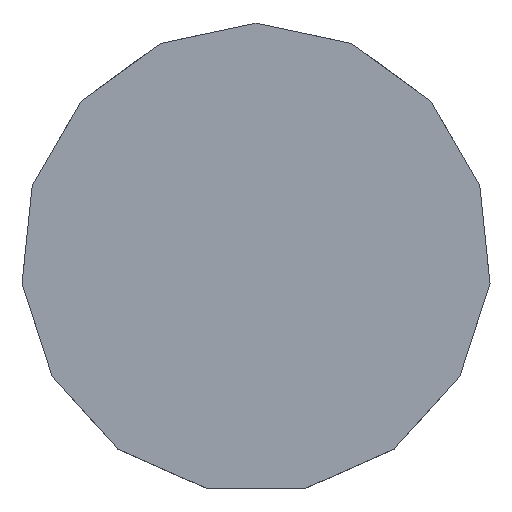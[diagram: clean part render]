
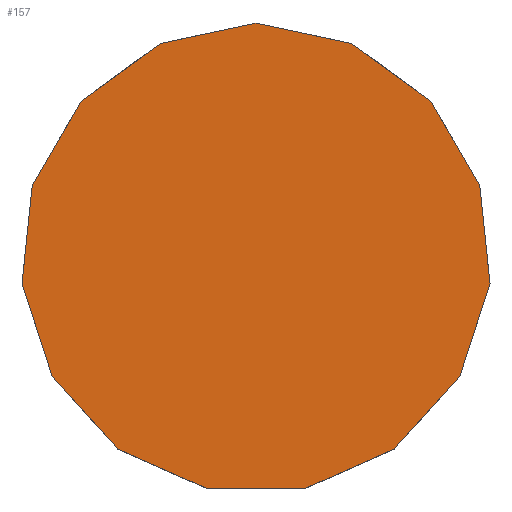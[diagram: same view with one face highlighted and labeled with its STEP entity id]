
A CAD part, top view. The second image highlights one B-rep face of the part: STEP entity #157.
In plain terms, the highlighted planar face has unit normal (0, 0, 1).
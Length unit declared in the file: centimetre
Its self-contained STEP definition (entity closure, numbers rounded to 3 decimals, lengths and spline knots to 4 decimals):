
#3 = EDGE_CURVE ( 'NONE', #2042, #959, #1417, .T. ) ;
#25 = LINE ( 'NONE', #2528, #1195 ) ;
#48 = ORIENTED_EDGE ( 'NONE', *, *, #950, .T. ) ;
#67 = LINE ( 'NONE', #266, #2397 ) ;
#75 = CARTESIAN_POINT ( 'NONE',  ( 171.3444, 154.2792, 22.7305 ) ) ;
#81 = EDGE_CURVE ( 'NONE', #2219, #1859, #2984, .T. ) ;
#94 = VECTOR ( 'NONE', #908, 100. ) ;
#115 = CARTESIAN_POINT ( 'NONE',  ( -219.2819, 71.249, 22.7305 ) ) ;
#157 = ADVANCED_FACE ( 'NONE', ( #982 ), #1087, .T. ) ;
#169 = VECTOR ( 'NONE', #404, 100. ) ;
#180 = EDGE_LOOP ( 'NONE', ( #2321, #212, #857, #2750, #48, #595, #195, #2232, #254, #2438, #2952, #1860, #2616, #622, #1810 ) ) ;
#187 = DIRECTION ( 'NONE',  ( -0.105, -0.995, 0. ) ) ;
#195 = ORIENTED_EDGE ( 'NONE', *, *, #2447, .T. ) ;
#212 = ORIENTED_EDGE ( 'NONE', *, *, #3, .T. ) ;
#223 = EDGE_CURVE ( 'NONE', #939, #2514, #844, .T. ) ;
#241 = VECTOR ( 'NONE', #2076, 100. ) ;
#254 = ORIENTED_EDGE ( 'NONE', *, *, #353, .T. ) ;
#266 = CARTESIAN_POINT ( 'NONE',  ( 135.5237, -186.5323, 22.7305 ) ) ;
#278 = DIRECTION ( 'NONE',  ( -0.809, -0.588, 0. ) ) ;
#319 = LINE ( 'NONE', #1747, #2111 ) ;
#324 = VERTEX_POINT ( 'NONE', #2409 ) ;
#353 = EDGE_CURVE ( 'NONE', #1542, #1688, #1134, .T. ) ;
#404 = DIRECTION ( 'NONE',  ( 0.914, -0.407, 0. ) ) ;
#434 = CARTESIAN_POINT ( 'NONE',  ( 0., 0., 22.7305 ) ) ;
#494 = EDGE_CURVE ( 'NONE', #2890, #1542, #1451, .T. ) ;
#508 = CARTESIAN_POINT ( 'NONE',  ( 219.2819, 71.249, 22.7305 ) ) ;
#595 = ORIENTED_EDGE ( 'NONE', *, *, #223, .T. ) ;
#606 = CARTESIAN_POINT ( 'NONE',  ( 199.6766, -115.2833, 22.7305 ) ) ;
#622 = ORIENTED_EDGE ( 'NONE', *, *, #1632, .T. ) ;
#643 = DIRECTION ( 'NONE',  ( 0., 0., 1. ) ) ;
#773 = CARTESIAN_POINT ( 'NONE',  ( -135.5237, -186.5323, 22.7305 ) ) ;
#805 = VECTOR ( 'NONE', #1408, 100. ) ;
#844 = LINE ( 'NONE', #606, #2003 ) ;
#852 = DIRECTION ( 'NONE',  ( 0.669, 0.743, 0. ) ) ;
#857 = ORIENTED_EDGE ( 'NONE', *, *, #2832, .T. ) ;
#866 = CARTESIAN_POINT ( 'NONE',  ( 171.3444, 154.2792, 22.7305 ) ) ;
#868 = DIRECTION ( 'NONE',  ( 1., 0., 0. ) ) ;
#899 = EDGE_CURVE ( 'NONE', #2305, #324, #1928, .T. ) ;
#902 = CARTESIAN_POINT ( 'NONE',  ( 199.6766, -115.2833, 22.7305 ) ) ;
#908 = DIRECTION ( 'NONE',  ( 0.309, 0.951, 0. ) ) ;
#917 = DIRECTION ( 'NONE',  ( -0.809, 0.588, 0. ) ) ;
#918 = VECTOR ( 'NONE', #1367, 100. ) ;
#939 = VERTEX_POINT ( 'NONE', #2369 ) ;
#950 = EDGE_CURVE ( 'NONE', #1836, #939, #67, .T. ) ;
#959 = VERTEX_POINT ( 'NONE', #1663 ) ;
#982 = FACE_OUTER_BOUND ( 'NONE', #180, .T. ) ;
#1039 = DIRECTION ( 'NONE',  ( -0.5, -0.866, 0. ) ) ;
#1052 = CARTESIAN_POINT ( 'NONE',  ( 199.6766, -115.2833, 22.7305 ) ) ;
#1087 = PLANE ( 'NONE',  #1423 ) ;
#1134 = LINE ( 'NONE', #75, #2839 ) ;
#1191 = LINE ( 'NONE', #2489, #1805 ) ;
#1195 = VECTOR ( 'NONE', #917, 100. ) ;
#1201 = VECTOR ( 'NONE', #187, 100. ) ;
#1237 = DIRECTION ( 'NONE',  ( -0.5, 0.866, 0. ) ) ;
#1325 = CARTESIAN_POINT ( 'NONE',  ( 47.9375, -225.5282, 22.7305 ) ) ;
#1345 = CARTESIAN_POINT ( 'NONE',  ( -47.9375, -225.5282, 22.7305 ) ) ;
#1367 = DIRECTION ( 'NONE',  ( 1., 0., 0. ) ) ;
#1408 = DIRECTION ( 'NONE',  ( 0.669, -0.743, 0. ) ) ;
#1417 = LINE ( 'NONE', #2401, #805 ) ;
#1423 = AXIS2_PLACEMENT_3D ( 'NONE', #434, #643, #868 ) ;
#1438 = CARTESIAN_POINT ( 'NONE',  ( 229.3036, -24.1008, 22.7305 ) ) ;
#1439 = LINE ( 'NONE', #1761, #1922 ) ;
#1451 = LINE ( 'NONE', #508, #1934 ) ;
#1469 = VERTEX_POINT ( 'NONE', #2835 ) ;
#1542 = VERTEX_POINT ( 'NONE', #2891 ) ;
#1600 = LINE ( 'NONE', #1653, #918 ) ;
#1625 = VERTEX_POINT ( 'NONE', #1345 ) ;
#1632 = EDGE_CURVE ( 'NONE', #324, #2219, #319, .T. ) ;
#1651 = DIRECTION ( 'NONE',  ( -0.978, 0.208, 0. ) ) ;
#1653 = CARTESIAN_POINT ( 'NONE',  ( -47.9375, -225.5282, 22.7305 ) ) ;
#1663 = CARTESIAN_POINT ( 'NONE',  ( -135.5237, -186.5323, 22.7305 ) ) ;
#1688 = VERTEX_POINT ( 'NONE', #866 ) ;
#1747 = CARTESIAN_POINT ( 'NONE',  ( -171.3444, 154.2792, 22.7305 ) ) ;
#1761 = CARTESIAN_POINT ( 'NONE',  ( -229.3036, -24.1008, 22.7305 ) ) ;
#1767 = CARTESIAN_POINT ( 'NONE',  ( -229.3036, -24.1008, 22.7305 ) ) ;
#1798 = EDGE_CURVE ( 'NONE', #1625, #1836, #1600, .T. ) ;
#1805 = VECTOR ( 'NONE', #1651, 100. ) ;
#1810 = ORIENTED_EDGE ( 'NONE', *, *, #81, .T. ) ;
#1836 = VERTEX_POINT ( 'NONE', #1325 ) ;
#1859 = VERTEX_POINT ( 'NONE', #1767 ) ;
#1860 = ORIENTED_EDGE ( 'NONE', *, *, #2419, .T. ) ;
#1870 = CARTESIAN_POINT ( 'NONE',  ( 0., 230.5666, 22.7305 ) ) ;
#1922 = VECTOR ( 'NONE', #2756, 100. ) ;
#1928 = LINE ( 'NONE', #2144, #2472 ) ;
#1934 = VECTOR ( 'NONE', #2593, 100. ) ;
#2003 = VECTOR ( 'NONE', #852, 100. ) ;
#2035 = LINE ( 'NONE', #773, #169 ) ;
#2038 = LINE ( 'NONE', #1870, #241 ) ;
#2042 = VERTEX_POINT ( 'NONE', #2882 ) ;
#2076 = DIRECTION ( 'NONE',  ( -0.978, -0.208, 0. ) ) ;
#2097 = EDGE_CURVE ( 'NONE', #1688, #2773, #25, .T. ) ;
#2111 = VECTOR ( 'NONE', #1039, 100. ) ;
#2144 = CARTESIAN_POINT ( 'NONE',  ( -93.7799, 210.6331, 22.7305 ) ) ;
#2219 = VERTEX_POINT ( 'NONE', #115 ) ;
#2232 = ORIENTED_EDGE ( 'NONE', *, *, #494, .T. ) ;
#2250 = EDGE_CURVE ( 'NONE', #1859, #2042, #1439, .T. ) ;
#2251 = CARTESIAN_POINT ( 'NONE',  ( -219.2819, 71.249, 22.7305 ) ) ;
#2305 = VERTEX_POINT ( 'NONE', #2960 ) ;
#2321 = ORIENTED_EDGE ( 'NONE', *, *, #2250, .T. ) ;
#2355 = CARTESIAN_POINT ( 'NONE',  ( 93.7799, 210.6331, 22.7305 ) ) ;
#2369 = CARTESIAN_POINT ( 'NONE',  ( 135.5237, -186.5323, 22.7305 ) ) ;
#2397 = VECTOR ( 'NONE', #2821, 100. ) ;
#2401 = CARTESIAN_POINT ( 'NONE',  ( -199.6766, -115.2833, 22.7305 ) ) ;
#2409 = CARTESIAN_POINT ( 'NONE',  ( -171.3444, 154.2792, 22.7305 ) ) ;
#2419 = EDGE_CURVE ( 'NONE', #1469, #2305, #2038, .T. ) ;
#2438 = ORIENTED_EDGE ( 'NONE', *, *, #2097, .T. ) ;
#2447 = EDGE_CURVE ( 'NONE', #2514, #2890, #2504, .T. ) ;
#2472 = VECTOR ( 'NONE', #278, 100. ) ;
#2489 = CARTESIAN_POINT ( 'NONE',  ( 93.7799, 210.6331, 22.7305 ) ) ;
#2504 = LINE ( 'NONE', #902, #94 ) ;
#2514 = VERTEX_POINT ( 'NONE', #1052 ) ;
#2528 = CARTESIAN_POINT ( 'NONE',  ( 171.3444, 154.2792, 22.7305 ) ) ;
#2593 = DIRECTION ( 'NONE',  ( -0.105, 0.995, 0. ) ) ;
#2616 = ORIENTED_EDGE ( 'NONE', *, *, #899, .T. ) ;
#2750 = ORIENTED_EDGE ( 'NONE', *, *, #1798, .T. ) ;
#2756 = DIRECTION ( 'NONE',  ( 0.309, -0.951, 0. ) ) ;
#2773 = VERTEX_POINT ( 'NONE', #2355 ) ;
#2821 = DIRECTION ( 'NONE',  ( 0.914, 0.407, 0. ) ) ;
#2832 = EDGE_CURVE ( 'NONE', #959, #1625, #2035, .T. ) ;
#2835 = CARTESIAN_POINT ( 'NONE',  ( 0., 230.5666, 22.7305 ) ) ;
#2839 = VECTOR ( 'NONE', #1237, 100. ) ;
#2882 = CARTESIAN_POINT ( 'NONE',  ( -199.6766, -115.2833, 22.7305 ) ) ;
#2890 = VERTEX_POINT ( 'NONE', #1438 ) ;
#2891 = CARTESIAN_POINT ( 'NONE',  ( 219.2819, 71.249, 22.7305 ) ) ;
#2925 = EDGE_CURVE ( 'NONE', #2773, #1469, #1191, .T. ) ;
#2952 = ORIENTED_EDGE ( 'NONE', *, *, #2925, .T. ) ;
#2960 = CARTESIAN_POINT ( 'NONE',  ( -93.7799, 210.6331, 22.7305 ) ) ;
#2984 = LINE ( 'NONE', #2251, #1201 ) ;
